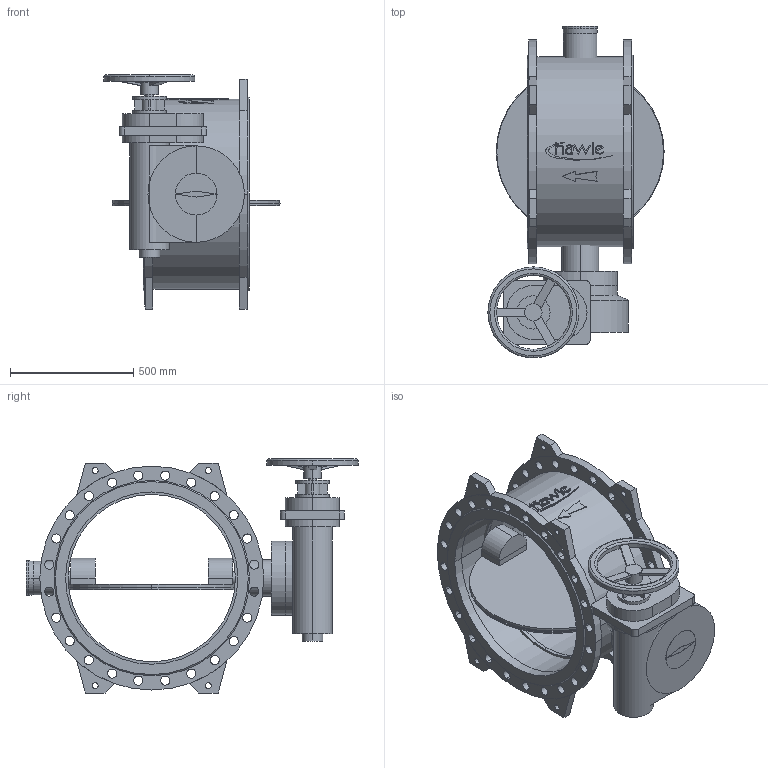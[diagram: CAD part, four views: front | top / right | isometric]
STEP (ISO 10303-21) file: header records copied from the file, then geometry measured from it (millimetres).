
FILE_DESCRIPTION(('STEP AP214'),'1');
FILE_NAME('S:/EK/USER/CAT6/3DHomepage_27-04-2012/neu_08-01-2013/9881K/9881K_PN16_DN700_7800.STP','2013-03-11T15:37:32',(' '),(' '),'Spatial InterOp 3D',' ',' ');
FILE_SCHEMA(('automotive_design'));
Length unit declared in the file: millimetre
Products named in the file (53): 3D-Objekt
Bounding box: 716 x 1349 x 951 mm (x, y, z)
Volume: 117164347.1 mm3; surface area: 7476245.8 mm2
Topology: 53 solids, 53 shells, 475 faces, 1100 edges, 734 vertices
Faces by surface type: cylinder 233, plane 230, cone 8, torus 4
Entity records: 18983 total; most frequent: DIRECTION 2668, CARTESIAN_POINT 2362, ORIENTED_EDGE 2200, EDGE_CURVE 1100, AXIS2_PLACEMENT_3D 1040, VERTEX_POINT 734, EDGE_LOOP 608, LINE 588
